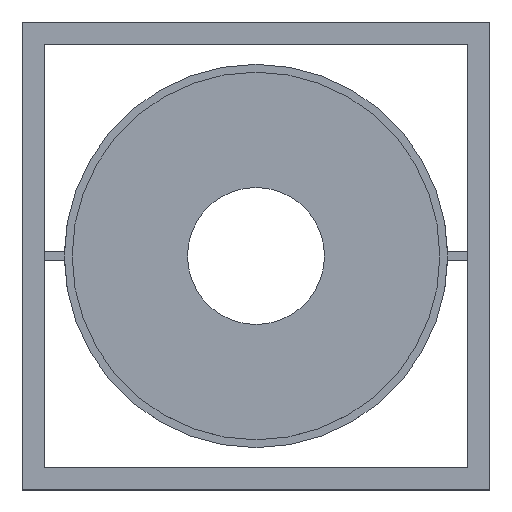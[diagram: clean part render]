
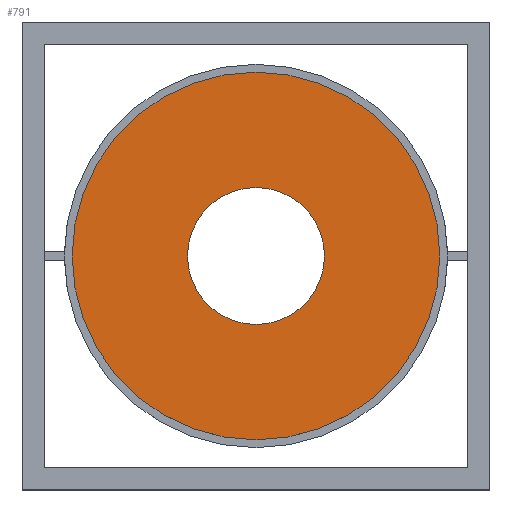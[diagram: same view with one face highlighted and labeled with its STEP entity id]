
A CAD part, top view. The second image highlights one B-rep face of the part: STEP entity #791.
In plain terms, the highlighted planar face has unit normal (0, 0, 1).
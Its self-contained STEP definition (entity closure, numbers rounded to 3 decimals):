
#654 = VERTEX_POINT('',#655);
#655 = CARTESIAN_POINT('',(27.15,21.,2.05));
#661 = EDGE_CURVE('',#654,#654,#662,.T.);
#662 = CIRCLE('',#663,6.15);
#663 = AXIS2_PLACEMENT_3D('',#664,#665,#666);
#664 = CARTESIAN_POINT('',(21.,21.,2.05));
#665 = DIRECTION('',(0.,0.,1.));
#666 = DIRECTION('',(1.,0.,0.));
#726 = VERTEX_POINT('',#727);
#727 = CARTESIAN_POINT('',(37.5,21.,2.05));
#733 = EDGE_CURVE('',#726,#726,#734,.T.);
#734 = CIRCLE('',#735,16.5);
#735 = AXIS2_PLACEMENT_3D('',#736,#737,#738);
#736 = CARTESIAN_POINT('',(21.,21.,2.05));
#737 = DIRECTION('',(0.,0.,1.));
#738 = DIRECTION('',(1.,0.,0.));
#791 = ADVANCED_FACE('',(#792,#795),#798,.T.);
#792 = FACE_BOUND('',#793,.T.);
#793 = EDGE_LOOP('',(#794));
#794 = ORIENTED_EDGE('',*,*,#733,.T.);
#795 = FACE_BOUND('',#796,.T.);
#796 = EDGE_LOOP('',(#797));
#797 = ORIENTED_EDGE('',*,*,#661,.F.);
#798 = PLANE('',#799);
#799 = AXIS2_PLACEMENT_3D('',#800,#801,#802);
#800 = CARTESIAN_POINT('',(21.,21.,2.05));
#801 = DIRECTION('',(0.,0.,1.));
#802 = DIRECTION('',(1.,0.,0.));
